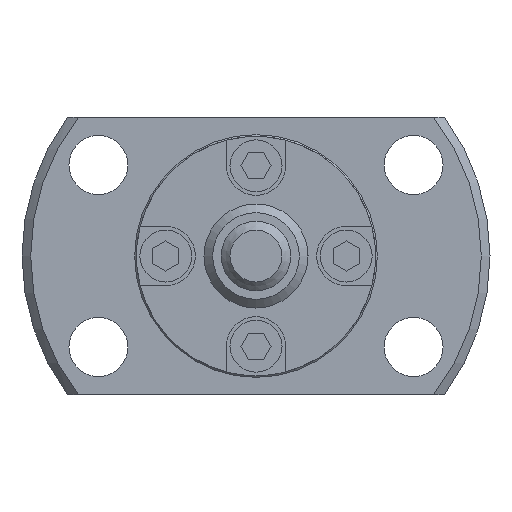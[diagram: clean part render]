
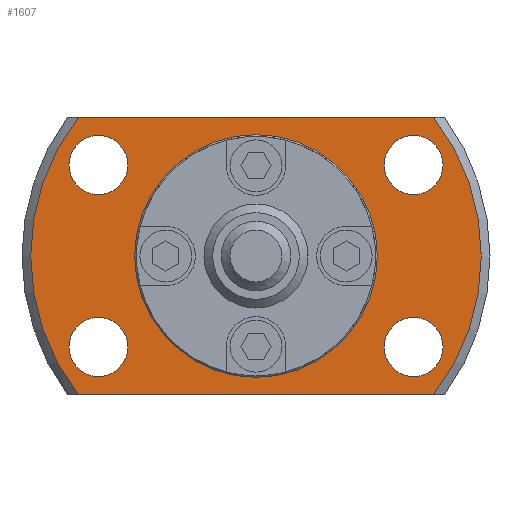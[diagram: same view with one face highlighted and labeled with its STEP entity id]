
A CAD part, left-side view. The second image highlights one B-rep face of the part: STEP entity #1607.
In plain terms, the highlighted planar face has unit normal (-1, 0, 0).
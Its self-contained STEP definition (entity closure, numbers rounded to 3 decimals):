
#128=LINE('',#2647,#248);
#129=LINE('',#2651,#249);
#248=VECTOR('',#2136,1000.);
#249=VECTOR('',#2139,1000.);
#468=ORIENTED_EDGE('',*,*,#837,.T.);
#469=ORIENTED_EDGE('',*,*,#838,.T.);
#470=ORIENTED_EDGE('',*,*,#839,.T.);
#471=ORIENTED_EDGE('',*,*,#840,.T.);
#472=ORIENTED_EDGE('',*,*,#793,.F.);
#473=ORIENTED_EDGE('',*,*,#841,.T.);
#474=ORIENTED_EDGE('',*,*,#842,.F.);
#475=ORIENTED_EDGE('',*,*,#843,.T.);
#476=ORIENTED_EDGE('',*,*,#836,.T.);
#793=EDGE_CURVE('',#995,#996,#1120,.T.);
#836=EDGE_CURVE('',#1033,#1033,#1142,.T.);
#837=EDGE_CURVE('',#1034,#1034,#1143,.T.);
#838=EDGE_CURVE('',#1035,#1035,#1144,.T.);
#839=EDGE_CURVE('',#1036,#1036,#1145,.T.);
#840=EDGE_CURVE('',#1037,#1037,#1146,.T.);
#841=EDGE_CURVE('',#995,#1038,#128,.T.);
#842=EDGE_CURVE('',#1039,#1038,#1147,.T.);
#843=EDGE_CURVE('',#1039,#996,#129,.T.);
#995=VERTEX_POINT('',#2537);
#996=VERTEX_POINT('',#2539);
#1033=VERTEX_POINT('',#2637);
#1034=VERTEX_POINT('',#2640);
#1035=VERTEX_POINT('',#2642);
#1036=VERTEX_POINT('',#2644);
#1037=VERTEX_POINT('',#2646);
#1038=VERTEX_POINT('',#2648);
#1039=VERTEX_POINT('',#2650);
#1120=CIRCLE('',#1761,13.);
#1142=CIRCLE('',#1792,6.8);
#1143=CIRCLE('',#1794,1.7);
#1144=CIRCLE('',#1795,1.7);
#1145=CIRCLE('',#1796,1.7);
#1146=CIRCLE('',#1797,1.7);
#1147=CIRCLE('',#1798,13.);
#1241=EDGE_LOOP('',(#468));
#1242=EDGE_LOOP('',(#469));
#1243=EDGE_LOOP('',(#470));
#1244=EDGE_LOOP('',(#471));
#1245=EDGE_LOOP('',(#472,#473,#474,#475));
#1246=EDGE_LOOP('',(#476));
#1407=FACE_BOUND('',#1241,.T.);
#1408=FACE_BOUND('',#1242,.T.);
#1409=FACE_BOUND('',#1243,.T.);
#1410=FACE_BOUND('',#1244,.T.);
#1411=FACE_BOUND('',#1245,.T.);
#1412=FACE_BOUND('',#1246,.T.);
#1520=PLANE('',#1793);
#1607=ADVANCED_FACE('',(#1407,#1408,#1409,#1410,#1411,#1412),#1520,.F.);
#1761=AXIS2_PLACEMENT_3D('',#2538,#2044,#2045);
#1792=AXIS2_PLACEMENT_3D('',#2636,#2124,#2125);
#1793=AXIS2_PLACEMENT_3D('',#2638,#2126,#2127);
#1794=AXIS2_PLACEMENT_3D('',#2639,#2128,#2129);
#1795=AXIS2_PLACEMENT_3D('',#2641,#2130,#2131);
#1796=AXIS2_PLACEMENT_3D('',#2643,#2132,#2133);
#1797=AXIS2_PLACEMENT_3D('',#2645,#2134,#2135);
#1798=AXIS2_PLACEMENT_3D('',#2649,#2137,#2138);
#2044=DIRECTION('',(1.,0.,0.));
#2045=DIRECTION('',(0.,0.,-1.));
#2124=DIRECTION('',(1.,0.,0.));
#2125=DIRECTION('',(0.,0.,-1.));
#2126=DIRECTION('',(1.,0.,0.));
#2127=DIRECTION('',(0.,0.,-1.));
#2128=DIRECTION('',(1.,0.,0.));
#2129=DIRECTION('',(0.,0.,-1.));
#2130=DIRECTION('',(1.,0.,0.));
#2131=DIRECTION('',(0.,0.,-1.));
#2132=DIRECTION('',(1.,0.,0.));
#2133=DIRECTION('',(0.,0.,-1.));
#2134=DIRECTION('',(1.,0.,0.));
#2135=DIRECTION('',(0.,0.,-1.));
#2136=DIRECTION('',(0.,-1.,0.));
#2137=DIRECTION('',(1.,0.,0.));
#2138=DIRECTION('',(0.,0.,-1.));
#2139=DIRECTION('',(0.,1.,0.));
#2537=CARTESIAN_POINT('',(11.5,10.247,-8.));
#2538=CARTESIAN_POINT('',(11.5,0.,0.));
#2539=CARTESIAN_POINT('',(11.5,10.247,8.));
#2636=CARTESIAN_POINT('',(11.5,0.,0.));
#2637=CARTESIAN_POINT('',(11.5,0.,-6.8));
#2638=CARTESIAN_POINT('',(11.5,6.8,0.));
#2639=CARTESIAN_POINT('',(11.5,-9.093,-5.25));
#2640=CARTESIAN_POINT('',(11.5,-9.093,-6.95));
#2641=CARTESIAN_POINT('',(11.5,-9.093,5.25));
#2642=CARTESIAN_POINT('',(11.5,-9.093,3.55));
#2643=CARTESIAN_POINT('',(11.5,9.093,-5.25));
#2644=CARTESIAN_POINT('',(11.5,9.093,-6.95));
#2645=CARTESIAN_POINT('',(11.5,9.093,5.25));
#2646=CARTESIAN_POINT('',(11.5,9.093,3.55));
#2647=CARTESIAN_POINT('',(11.5,6.8,-8.));
#2648=CARTESIAN_POINT('',(11.5,-10.247,-8.));
#2649=CARTESIAN_POINT('',(11.5,0.,0.));
#2650=CARTESIAN_POINT('',(11.5,-10.247,8.));
#2651=CARTESIAN_POINT('',(11.5,6.8,8.));
